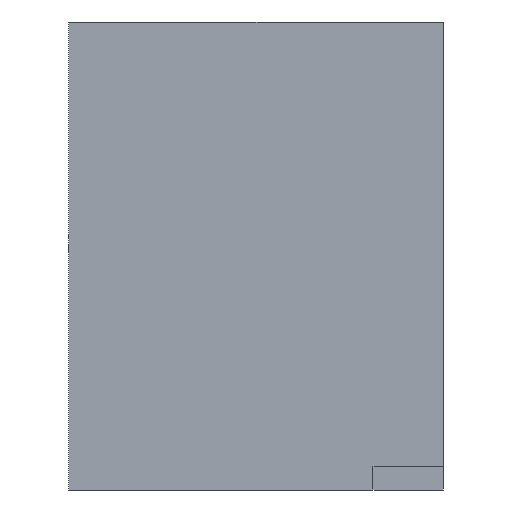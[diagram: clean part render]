
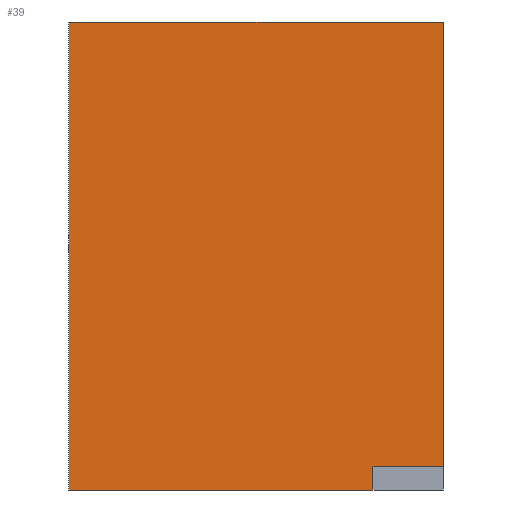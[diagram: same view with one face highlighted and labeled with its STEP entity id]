
A CAD part, left-side view. The second image highlights one B-rep face of the part: STEP entity #39.
In plain terms, the highlighted planar face has unit normal (-1, 0, 0).
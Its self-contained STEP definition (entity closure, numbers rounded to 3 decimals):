
#39 = ADVANCED_FACE('',(#40),#90,.F.);
#40 = FACE_BOUND('',#41,.F.);
#41 = EDGE_LOOP('',(#42,#52,#60,#68,#76,#84));
#42 = ORIENTED_EDGE('',*,*,#43,.F.);
#43 = EDGE_CURVE('',#44,#46,#48,.T.);
#44 = VERTEX_POINT('',#45);
#45 = CARTESIAN_POINT('',(-2.,-0.8,0.1));
#46 = VERTEX_POINT('',#47);
#47 = CARTESIAN_POINT('',(-2.,-0.8,2.));
#48 = LINE('',#49,#50);
#49 = CARTESIAN_POINT('',(-2.,-0.8,0.));
#50 = VECTOR('',#51,1.);
#51 = DIRECTION('',(0.,0.,1.));
#52 = ORIENTED_EDGE('',*,*,#53,.T.);
#53 = EDGE_CURVE('',#44,#54,#56,.T.);
#54 = VERTEX_POINT('',#55);
#55 = CARTESIAN_POINT('',(-2.,-0.5,0.1));
#56 = LINE('',#57,#58);
#57 = CARTESIAN_POINT('',(-2.,-0.8,0.1));
#58 = VECTOR('',#59,1.);
#59 = DIRECTION('',(-0.,1.,0.));
#60 = ORIENTED_EDGE('',*,*,#61,.F.);
#61 = EDGE_CURVE('',#62,#54,#64,.T.);
#62 = VERTEX_POINT('',#63);
#63 = CARTESIAN_POINT('',(-2.,-0.5,0.));
#64 = LINE('',#65,#66);
#65 = CARTESIAN_POINT('',(-2.,-0.5,0.));
#66 = VECTOR('',#67,1.);
#67 = DIRECTION('',(0.,0.,1.));
#68 = ORIENTED_EDGE('',*,*,#69,.T.);
#69 = EDGE_CURVE('',#62,#70,#72,.T.);
#70 = VERTEX_POINT('',#71);
#71 = CARTESIAN_POINT('',(-2.,0.8,0.));
#72 = LINE('',#73,#74);
#73 = CARTESIAN_POINT('',(-2.,-0.8,0.));
#74 = VECTOR('',#75,1.);
#75 = DIRECTION('',(-0.,1.,0.));
#76 = ORIENTED_EDGE('',*,*,#77,.T.);
#77 = EDGE_CURVE('',#70,#78,#80,.T.);
#78 = VERTEX_POINT('',#79);
#79 = CARTESIAN_POINT('',(-2.,0.8,2.));
#80 = LINE('',#81,#82);
#81 = CARTESIAN_POINT('',(-2.,0.8,0.));
#82 = VECTOR('',#83,1.);
#83 = DIRECTION('',(0.,0.,1.));
#84 = ORIENTED_EDGE('',*,*,#85,.F.);
#85 = EDGE_CURVE('',#46,#78,#86,.T.);
#86 = LINE('',#87,#88);
#87 = CARTESIAN_POINT('',(-2.,-0.8,2.));
#88 = VECTOR('',#89,1.);
#89 = DIRECTION('',(-0.,1.,0.));
#90 = PLANE('',#91);
#91 = AXIS2_PLACEMENT_3D('',#92,#93,#94);
#92 = CARTESIAN_POINT('',(-2.,-0.8,0.));
#93 = DIRECTION('',(1.,0.,-0.));
#94 = DIRECTION('',(0.,0.,1.));
